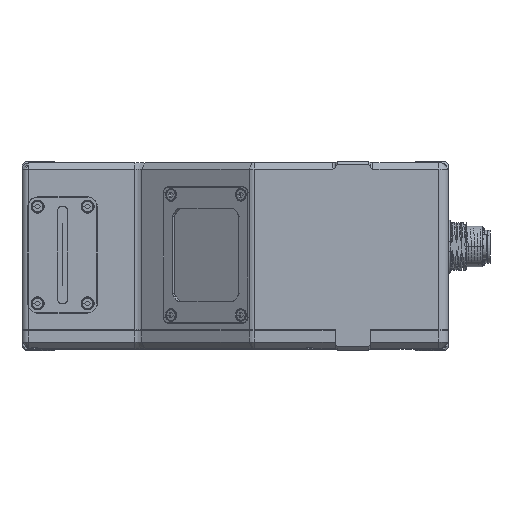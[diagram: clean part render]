
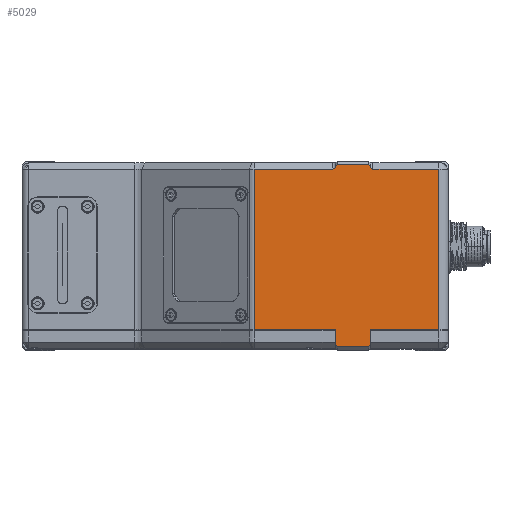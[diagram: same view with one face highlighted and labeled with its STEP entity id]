
A CAD part, top view. The second image highlights one B-rep face of the part: STEP entity #5029.
In plain terms, the highlighted planar face has unit normal (0, 0, 1).
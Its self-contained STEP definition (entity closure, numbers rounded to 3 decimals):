
#358=DIRECTION('',(-1.,0.,0.));
#359=VECTOR('',#358,25.212);
#360=CARTESIAN_POINT('',(31.352,27.75,59.75));
#361=LINE('',#360,#359);
#442=DIRECTION('',(-1.,0.,0.));
#443=VECTOR('',#442,21.102);
#444=CARTESIAN_POINT('',(65.25,27.75,59.75));
#445=LINE('',#444,#443);
#885=DIRECTION('',(0.,-1.,0.));
#886=VECTOR('',#885,51.5);
#887=CARTESIAN_POINT('',(6.139,27.75,59.75));
#888=LINE('',#887,#886);
#893=DIRECTION('',(0.577,-0.816,0.));
#894=VECTOR('',#893,0.866);
#895=CARTESIAN_POINT('',(42.75,29.25,59.75));
#896=LINE('',#895,#894);
#897=CARTESIAN_POINT('',(43.25,28.543,59.75));
#898=CARTESIAN_POINT('',(43.29,28.428,59.75));
#899=CARTESIAN_POINT('',(43.388,28.223,59.75));
#900=CARTESIAN_POINT('',(43.581,27.98,59.75));
#901=CARTESIAN_POINT('',(43.783,27.836,59.75));
#902=CARTESIAN_POINT('',(43.976,27.765,59.75));
#903=CARTESIAN_POINT('',(44.087,27.75,59.75));
#904=CARTESIAN_POINT('',(44.148,27.75,59.75));
#906=DIRECTION('',(-1.,0.,0.));
#907=VECTOR('',#906,22.);
#908=CARTESIAN_POINT('',(65.25,-23.75,59.75));
#909=LINE('',#908,#907);
#910=DIRECTION('',(-0.577,-0.816,0.));
#911=VECTOR('',#910,0.866);
#912=CARTESIAN_POINT('',(43.25,-28.543,59.75));
#913=LINE('',#912,#911);
#914=DIRECTION('',(-0.577,0.816,0.));
#915=VECTOR('',#914,0.866);
#916=CARTESIAN_POINT('',(32.75,-29.25,59.75));
#917=LINE('',#916,#915);
#918=DIRECTION('',(0.,1.,0.));
#919=VECTOR('',#918,4.793);
#920=CARTESIAN_POINT('',(32.25,-28.543,59.75));
#921=LINE('',#920,#919);
#922=DIRECTION('',(-1.,0.,0.));
#923=VECTOR('',#922,26.111);
#924=CARTESIAN_POINT('',(32.25,-23.75,59.75));
#925=LINE('',#924,#923);
#926=CARTESIAN_POINT('',(31.352,27.75,59.75));
#927=CARTESIAN_POINT('',(31.413,27.75,59.75));
#928=CARTESIAN_POINT('',(31.524,27.765,59.75));
#929=CARTESIAN_POINT('',(31.717,27.836,59.75));
#930=CARTESIAN_POINT('',(31.919,27.98,59.75));
#931=CARTESIAN_POINT('',(32.112,28.223,59.75));
#932=CARTESIAN_POINT('',(32.21,28.428,59.75));
#933=CARTESIAN_POINT('',(32.25,28.543,59.75));
#935=DIRECTION('',(0.577,0.816,0.));
#936=VECTOR('',#935,0.866);
#937=CARTESIAN_POINT('',(32.25,28.543,59.75));
#938=LINE('',#937,#936);
#943=DIRECTION('',(0.,1.,0.));
#944=VECTOR('',#943,51.5);
#945=CARTESIAN_POINT('',(65.25,-23.75,59.75));
#946=LINE('',#945,#944);
#2032=DIRECTION('',(0.,1.,0.));
#2033=VECTOR('',#2032,4.793);
#2034=CARTESIAN_POINT('',(43.25,-28.543,59.75));
#2035=LINE('',#2034,#2033);
#2060=DIRECTION('',(1.,0.,0.));
#2061=VECTOR('',#2060,10.);
#2062=CARTESIAN_POINT('',(32.75,-29.25,59.75));
#2063=LINE('',#2062,#2061);
#3013=DIRECTION('',(-1.,0.,0.));
#3014=VECTOR('',#3013,10.);
#3015=CARTESIAN_POINT('',(42.75,29.25,59.75));
#3016=LINE('',#3015,#3014);
#3700=CARTESIAN_POINT('',(42.75,29.25,59.75));
#3701=CARTESIAN_POINT('',(43.25,28.543,59.75));
#3702=VERTEX_POINT('',#3700);
#3703=VERTEX_POINT('',#3701);
#3704=VERTEX_POINT('',#904);
#3705=CARTESIAN_POINT('',(65.25,27.75,59.75));
#3706=VERTEX_POINT('',#3705);
#3707=CARTESIAN_POINT('',(65.25,-23.75,59.75));
#3708=VERTEX_POINT('',#3707);
#3709=CARTESIAN_POINT('',(43.25,-23.75,59.75));
#3710=VERTEX_POINT('',#3709);
#3711=CARTESIAN_POINT('',(43.25,-28.543,59.75));
#3712=VERTEX_POINT('',#3711);
#3713=CARTESIAN_POINT('',(42.75,-29.25,59.75));
#3714=VERTEX_POINT('',#3713);
#3715=CARTESIAN_POINT('',(32.75,-29.25,59.75));
#3716=VERTEX_POINT('',#3715);
#3717=CARTESIAN_POINT('',(32.25,-28.543,59.75));
#3718=VERTEX_POINT('',#3717);
#3719=CARTESIAN_POINT('',(32.25,-23.75,59.75));
#3720=VERTEX_POINT('',#3719);
#3721=CARTESIAN_POINT('',(6.139,-23.75,59.75));
#3722=VERTEX_POINT('',#3721);
#3723=CARTESIAN_POINT('',(6.139,27.75,59.75));
#3724=VERTEX_POINT('',#3723);
#3725=CARTESIAN_POINT('',(31.352,27.75,59.75));
#3726=VERTEX_POINT('',#3725);
#3727=VERTEX_POINT('',#933);
#3728=CARTESIAN_POINT('',(32.75,29.25,59.75));
#3729=VERTEX_POINT('',#3728);
#4997=CARTESIAN_POINT('',(-68.25,-29.75,59.75));
#4998=DIRECTION('',(0.,0.,1.));
#4999=DIRECTION('',(1.,0.,0.));
#5000=AXIS2_PLACEMENT_3D('',#4997,#4998,#4999);
#5001=PLANE('',#5000);
#5002=ORIENTED_EDGE('',*,*,#4548,.T.);
#5003=ORIENTED_EDGE('',*,*,#4563,.T.);
#5004=ORIENTED_EDGE('',*,*,#4579,.F.);
#5006=ORIENTED_EDGE('',*,*,#5005,.F.);
#5008=ORIENTED_EDGE('',*,*,#5007,.T.);
#5010=ORIENTED_EDGE('',*,*,#5009,.F.);
#5012=ORIENTED_EDGE('',*,*,#5011,.T.);
#5014=ORIENTED_EDGE('',*,*,#5013,.F.);
#5016=ORIENTED_EDGE('',*,*,#5015,.T.);
#5018=ORIENTED_EDGE('',*,*,#5017,.T.);
#5020=ORIENTED_EDGE('',*,*,#5019,.T.);
#5021=ORIENTED_EDGE('',*,*,#4989,.F.);
#5022=ORIENTED_EDGE('',*,*,#4440,.F.);
#5023=ORIENTED_EDGE('',*,*,#4456,.T.);
#5024=ORIENTED_EDGE('',*,*,#4471,.T.);
#5026=ORIENTED_EDGE('',*,*,#5025,.F.);
#5027=EDGE_LOOP('',(#5002,#5003,#5004,#5006,#5008,#5010,#5012,#5014,#5016,#5018,
#5020,#5021,#5022,#5023,#5024,#5026));
#5028=FACE_OUTER_BOUND('',#5027,.F.);
#5029=ADVANCED_FACE('',(#5028),#5001,.T.);
#905=B_SPLINE_CURVE_WITH_KNOTS('',3,(#897,#898,#899,#900,#901,#902,#903,#904),
.UNSPECIFIED.,.F.,.F.,(4,1,1,1,1,4),(0.,0.25,0.5,0.75,0.875,1.),
.UNSPECIFIED.);
#934=B_SPLINE_CURVE_WITH_KNOTS('',3,(#926,#927,#928,#929,#930,#931,#932,#933),
.UNSPECIFIED.,.F.,.F.,(4,1,1,1,1,4),(0.,0.125,0.25,0.5,0.75,1.),
.UNSPECIFIED.);
#4440=EDGE_CURVE('',#3726,#3724,#361,.T.);
#4456=EDGE_CURVE('',#3726,#3727,#934,.T.);
#4471=EDGE_CURVE('',#3727,#3729,#938,.T.);
#4548=EDGE_CURVE('',#3702,#3703,#896,.T.);
#4563=EDGE_CURVE('',#3703,#3704,#905,.T.);
#4579=EDGE_CURVE('',#3706,#3704,#445,.T.);
#4989=EDGE_CURVE('',#3724,#3722,#888,.T.);
#5005=EDGE_CURVE('',#3708,#3706,#946,.T.);
#5007=EDGE_CURVE('',#3708,#3710,#909,.T.);
#5009=EDGE_CURVE('',#3712,#3710,#2035,.T.);
#5011=EDGE_CURVE('',#3712,#3714,#913,.T.);
#5013=EDGE_CURVE('',#3716,#3714,#2063,.T.);
#5015=EDGE_CURVE('',#3716,#3718,#917,.T.);
#5017=EDGE_CURVE('',#3718,#3720,#921,.T.);
#5019=EDGE_CURVE('',#3720,#3722,#925,.T.);
#5025=EDGE_CURVE('',#3702,#3729,#3016,.T.);
